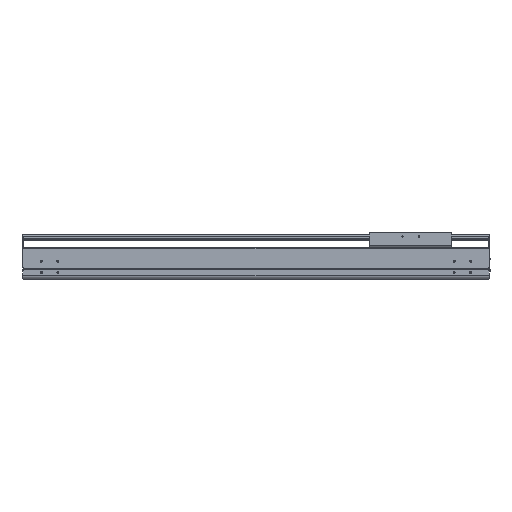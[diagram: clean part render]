
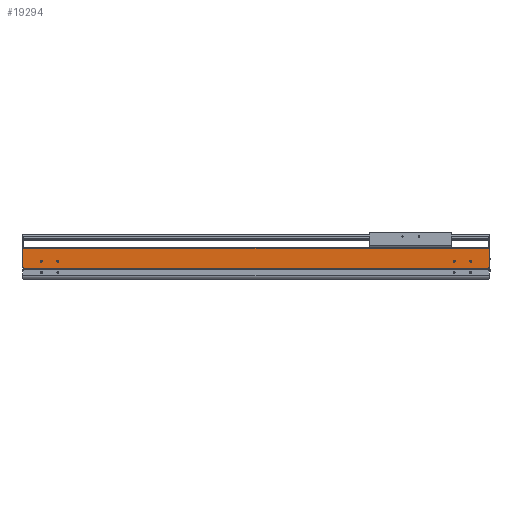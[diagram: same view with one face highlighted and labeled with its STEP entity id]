
A CAD part, top view. The second image highlights one B-rep face of the part: STEP entity #19294.
In plain terms, the highlighted planar face has unit normal (0, 0, 1).
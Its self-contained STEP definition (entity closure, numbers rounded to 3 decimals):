
#1021=DIRECTION('',(0.,-1.,0.));
#1022=VECTOR('',#1021,2.55);
#1023=CARTESIAN_POINT('',(0.,34.65,107.));
#1024=LINE('',#1023,#1022);
#4152=DIRECTION('',(1.,0.,0.));
#4153=VECTOR('',#4152,2.);
#4154=CARTESIAN_POINT('',(0.,34.65,107.));
#4155=LINE('',#4154,#4153);
#4160=CARTESIAN_POINT('',(-54.5,54.,107.));
#4161=DIRECTION('',(0.,0.,-1.));
#4162=DIRECTION('',(1.,0.,0.));
#4163=AXIS2_PLACEMENT_3D('',#4160,#4161,#4162);
#4165=CARTESIAN_POINT('',(-54.5,54.,107.));
#4166=DIRECTION('',(0.,0.,-1.));
#4167=DIRECTION('',(-1.,0.,0.));
#4168=AXIS2_PLACEMENT_3D('',#4165,#4166,#4167);
#4170=CARTESIAN_POINT('',(-104.5,54.,107.));
#4171=DIRECTION('',(0.,0.,-1.));
#4172=DIRECTION('',(1.,0.,0.));
#4173=AXIS2_PLACEMENT_3D('',#4170,#4171,#4172);
#4175=CARTESIAN_POINT('',(-104.5,54.,107.));
#4176=DIRECTION('',(0.,0.,-1.));
#4177=DIRECTION('',(-1.,0.,0.));
#4178=AXIS2_PLACEMENT_3D('',#4175,#4176,#4177);
#4180=CARTESIAN_POINT('',(-1354.5,54.,107.));
#4181=DIRECTION('',(0.,0.,-1.));
#4182=DIRECTION('',(1.,0.,0.));
#4183=AXIS2_PLACEMENT_3D('',#4180,#4181,#4182);
#4185=CARTESIAN_POINT('',(-1354.5,54.,107.));
#4186=DIRECTION('',(0.,0.,-1.));
#4187=DIRECTION('',(-1.,0.,0.));
#4188=AXIS2_PLACEMENT_3D('',#4185,#4186,#4187);
#4190=CARTESIAN_POINT('',(-1304.5,54.,107.));
#4191=DIRECTION('',(0.,0.,-1.));
#4192=DIRECTION('',(1.,0.,0.));
#4193=AXIS2_PLACEMENT_3D('',#4190,#4191,#4192);
#4195=CARTESIAN_POINT('',(-1304.5,54.,107.));
#4196=DIRECTION('',(0.,0.,-1.));
#4197=DIRECTION('',(-1.,0.,0.));
#4198=AXIS2_PLACEMENT_3D('',#4195,#4196,#4197);
#4200=DIRECTION('',(0.,-1.,0.));
#4201=VECTOR('',#4200,2.55);
#4202=CARTESIAN_POINT('',(-1409.,34.65,107.));
#4203=LINE('',#4202,#4201);
#4204=DIRECTION('',(0.,-1.,0.));
#4205=VECTOR('',#4204,58.85);
#4206=CARTESIAN_POINT('',(-1411.,93.5,107.));
#4207=LINE('',#4206,#4205);
#4208=DIRECTION('',(0.,1.,0.));
#4209=VECTOR('',#4208,58.85);
#4210=CARTESIAN_POINT('',(2.,34.65,107.));
#4211=LINE('',#4210,#4209);
#4212=DIRECTION('',(1.,0.,0.));
#4213=VECTOR('',#4212,1409.);
#4214=CARTESIAN_POINT('',(-1409.,32.1,107.));
#4215=LINE('',#4214,#4213);
#4324=DIRECTION('',(1.,0.,0.));
#4325=VECTOR('',#4324,2.);
#4326=CARTESIAN_POINT('',(-1411.,34.65,107.));
#4327=LINE('',#4326,#4325);
#4336=DIRECTION('',(-1.,0.,0.));
#4337=VECTOR('',#4336,1413.);
#4338=CARTESIAN_POINT('',(2.,93.5,107.));
#4339=LINE('',#4338,#4337);
#11899=CARTESIAN_POINT('',(-1411.,34.65,107.));
#11900=VERTEX_POINT('',#11899);
#11901=CARTESIAN_POINT('',(-1411.,93.5,107.));
#11902=VERTEX_POINT('',#11901);
#12131=CARTESIAN_POINT('',(-1409.,32.1,107.));
#12132=VERTEX_POINT('',#12131);
#12644=CARTESIAN_POINT('',(0.,32.1,107.));
#12645=VERTEX_POINT('',#12644);
#12646=CARTESIAN_POINT('',(-52.,54.,107.));
#12647=CARTESIAN_POINT('',(-57.,54.,107.));
#12648=VERTEX_POINT('',#12646);
#12649=VERTEX_POINT('',#12647);
#12650=CARTESIAN_POINT('',(-102.,54.,107.));
#12651=CARTESIAN_POINT('',(-107.,54.,107.));
#12652=VERTEX_POINT('',#12650);
#12653=VERTEX_POINT('',#12651);
#12654=CARTESIAN_POINT('',(-1352.,54.,107.));
#12655=CARTESIAN_POINT('',(-1357.,54.,107.));
#12656=VERTEX_POINT('',#12654);
#12657=VERTEX_POINT('',#12655);
#12658=CARTESIAN_POINT('',(-1302.,54.,107.));
#12659=CARTESIAN_POINT('',(-1307.,54.,107.));
#12660=VERTEX_POINT('',#12658);
#12661=VERTEX_POINT('',#12659);
#13781=CARTESIAN_POINT('',(2.,34.65,107.));
#13782=VERTEX_POINT('',#13781);
#13783=CARTESIAN_POINT('',(2.,93.5,107.));
#13784=VERTEX_POINT('',#13783);
#14127=CARTESIAN_POINT('',(0.,34.65,107.));
#14128=VERTEX_POINT('',#14127);
#14315=CARTESIAN_POINT('',(-1409.,34.65,107.));
#14316=VERTEX_POINT('',#14315);
#19252=CARTESIAN_POINT('',(-704.5,62.8,107.));
#19253=DIRECTION('',(0.,0.,1.));
#19254=DIRECTION('',(0.,-1.,0.));
#19255=AXIS2_PLACEMENT_3D('',#19252,#19253,#19254);
#19256=PLANE('',#19255);
#19257=ORIENTED_EDGE('',*,*,#15858,.F.);
#19259=ORIENTED_EDGE('',*,*,#19258,.F.);
#19260=ORIENTED_EDGE('',*,*,#16943,.F.);
#19262=ORIENTED_EDGE('',*,*,#19261,.F.);
#19263=ORIENTED_EDGE('',*,*,#19060,.F.);
#19264=ORIENTED_EDGE('',*,*,#19245,.F.);
#19265=ORIENTED_EDGE('',*,*,#16473,.T.);
#19267=ORIENTED_EDGE('',*,*,#19266,.F.);
#19268=EDGE_LOOP('',(#19257,#19259,#19260,#19262,#19263,#19264,#19265,#19267));
#19269=FACE_OUTER_BOUND('',#19268,.F.);
#19271=ORIENTED_EDGE('',*,*,#19270,.F.);
#19273=ORIENTED_EDGE('',*,*,#19272,.F.);
#19274=EDGE_LOOP('',(#19271,#19273));
#19275=FACE_BOUND('',#19274,.F.);
#19277=ORIENTED_EDGE('',*,*,#19276,.F.);
#19279=ORIENTED_EDGE('',*,*,#19278,.F.);
#19280=EDGE_LOOP('',(#19277,#19279));
#19281=FACE_BOUND('',#19280,.F.);
#19283=ORIENTED_EDGE('',*,*,#19282,.F.);
#19285=ORIENTED_EDGE('',*,*,#19284,.F.);
#19286=EDGE_LOOP('',(#19283,#19285));
#19287=FACE_BOUND('',#19286,.F.);
#19289=ORIENTED_EDGE('',*,*,#19288,.F.);
#19291=ORIENTED_EDGE('',*,*,#19290,.F.);
#19292=EDGE_LOOP('',(#19289,#19291));
#19293=FACE_BOUND('',#19292,.F.);
#19294=ADVANCED_FACE('',(#19269,#19275,#19281,#19287,#19293),#19256,.T.);
#4164=CIRCLE('',#4163,2.5);
#4169=CIRCLE('',#4168,2.5);
#4174=CIRCLE('',#4173,2.5);
#4179=CIRCLE('',#4178,2.5);
#4184=CIRCLE('',#4183,2.5);
#4189=CIRCLE('',#4188,2.5);
#4194=CIRCLE('',#4193,2.5);
#4199=CIRCLE('',#4198,2.5);
#15858=EDGE_CURVE('',#14316,#12132,#4203,.T.);
#16473=EDGE_CURVE('',#14128,#12645,#1024,.T.);
#16943=EDGE_CURVE('',#11902,#11900,#4207,.T.);
#19060=EDGE_CURVE('',#13782,#13784,#4211,.T.);
#19245=EDGE_CURVE('',#14128,#13782,#4155,.T.);
#19258=EDGE_CURVE('',#11900,#14316,#4327,.T.);
#19261=EDGE_CURVE('',#13784,#11902,#4339,.T.);
#19266=EDGE_CURVE('',#12132,#12645,#4215,.T.);
#19270=EDGE_CURVE('',#12652,#12653,#4174,.T.);
#19272=EDGE_CURVE('',#12653,#12652,#4179,.T.);
#19276=EDGE_CURVE('',#12656,#12657,#4184,.T.);
#19278=EDGE_CURVE('',#12657,#12656,#4189,.T.);
#19282=EDGE_CURVE('',#12660,#12661,#4194,.T.);
#19284=EDGE_CURVE('',#12661,#12660,#4199,.T.);
#19288=EDGE_CURVE('',#12648,#12649,#4164,.T.);
#19290=EDGE_CURVE('',#12649,#12648,#4169,.T.);
